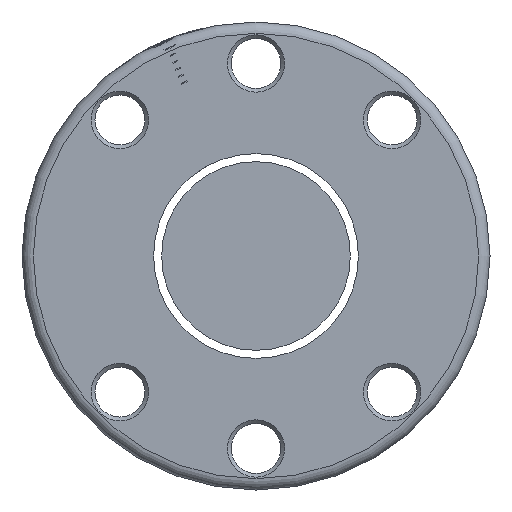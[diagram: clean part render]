
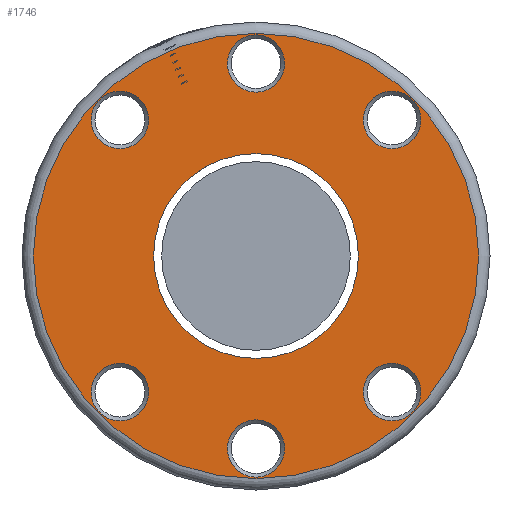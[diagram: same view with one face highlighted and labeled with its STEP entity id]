
A CAD part, left-side view. The second image highlights one B-rep face of the part: STEP entity #1746.
In plain terms, the highlighted planar face has unit normal (-1, 0, 0).
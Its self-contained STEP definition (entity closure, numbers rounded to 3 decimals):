
#11 = VERTEX_POINT ( 'NONE', #2136 ) ;
#20 = ORIENTED_EDGE ( 'NONE', *, *, #720, .T. ) ;
#38 = CARTESIAN_POINT ( 'NONE',  ( -54., 18.031, 21.831 ) ) ;
#52 = CARTESIAN_POINT ( 'NONE',  ( -54., 0., -21.7 ) ) ;
#124 = FACE_BOUND ( 'NONE', #251, .T. ) ;
#152 = DIRECTION ( 'NONE',  ( 0., 0., 1. ) ) ;
#178 = CARTESIAN_POINT ( 'NONE',  ( -54., 0., 0. ) ) ;
#180 = CIRCLE ( 'NONE', #1931, 3.8 ) ;
#231 = CIRCLE ( 'NONE', #273, 29.5 ) ;
#251 = EDGE_LOOP ( 'NONE', ( #1178 ) ) ;
#270 = CARTESIAN_POINT ( 'NONE',  ( -54., -18.031, 21.831 ) ) ;
#273 = AXIS2_PLACEMENT_3D ( 'NONE', #178, #411, #618 ) ;
#277 = AXIS2_PLACEMENT_3D ( 'NONE', #2022, #777, #569 ) ;
#280 = EDGE_CURVE ( 'NONE', #416, #416, #180, .T. ) ;
#349 = DIRECTION ( 'NONE',  ( 1., 0., 0. ) ) ;
#361 = FACE_BOUND ( 'NONE', #1383, .T. ) ;
#411 = DIRECTION ( 'NONE',  ( -1., 0., 0. ) ) ;
#416 = VERTEX_POINT ( 'NONE', #1885 ) ;
#424 = EDGE_LOOP ( 'NONE', ( #1820 ) ) ;
#456 = AXIS2_PLACEMENT_3D ( 'NONE', #1174, #1423, #2255 ) ;
#522 = FACE_OUTER_BOUND ( 'NONE', #619, .T. ) ;
#531 = ORIENTED_EDGE ( 'NONE', *, *, #1690, .T. ) ;
#555 = FACE_BOUND ( 'NONE', #1784, .T. ) ;
#569 = DIRECTION ( 'NONE',  ( 0., 0., 1. ) ) ;
#577 = EDGE_LOOP ( 'NONE', ( #2605 ) ) ;
#618 = DIRECTION ( 'NONE',  ( 0., 0., 1. ) ) ;
#619 = EDGE_LOOP ( 'NONE', ( #2030 ) ) ;
#700 = DIRECTION ( 'NONE',  ( 0., 0., 1. ) ) ;
#720 = EDGE_CURVE ( 'NONE', #1336, #1336, #1245, .T. ) ;
#768 = EDGE_LOOP ( 'NONE', ( #20 ) ) ;
#777 = DIRECTION ( 'NONE',  ( 1., 0., 0. ) ) ;
#853 = DIRECTION ( 'NONE',  ( 0., 0., -1. ) ) ;
#998 = FACE_BOUND ( 'NONE', #424, .T. ) ;
#1068 = AXIS2_PLACEMENT_3D ( 'NONE', #2646, #349, #1349 ) ;
#1074 = VERTEX_POINT ( 'NONE', #270 ) ;
#1086 = VERTEX_POINT ( 'NONE', #1285 ) ;
#1114 = CIRCLE ( 'NONE', #1823, 3.8 ) ;
#1144 = EDGE_CURVE ( 'NONE', #1074, #1074, #1254, .T. ) ;
#1174 = CARTESIAN_POINT ( 'NONE',  ( -54., -18.031, -18.031 ) ) ;
#1178 = ORIENTED_EDGE ( 'NONE', *, *, #1900, .T. ) ;
#1220 = FACE_BOUND ( 'NONE', #768, .T. ) ;
#1245 = CIRCLE ( 'NONE', #1586, 13.57 ) ;
#1254 = CIRCLE ( 'NONE', #1068, 3.8 ) ;
#1256 = EDGE_CURVE ( 'NONE', #1086, #1086, #231, .T. ) ;
#1285 = CARTESIAN_POINT ( 'NONE',  ( -54., 0., 29.5 ) ) ;
#1317 = CARTESIAN_POINT ( 'NONE',  ( -54., 18.031, 18.031 ) ) ;
#1320 = DIRECTION ( 'NONE',  ( 0., 0., 1. ) ) ;
#1336 = VERTEX_POINT ( 'NONE', #2354 ) ;
#1349 = DIRECTION ( 'NONE',  ( 0., 0., 1. ) ) ;
#1362 = CARTESIAN_POINT ( 'NONE',  ( -54., 31., 0. ) ) ;
#1383 = EDGE_LOOP ( 'NONE', ( #531 ) ) ;
#1395 = PLANE ( 'NONE',  #2555 ) ;
#1410 = FACE_BOUND ( 'NONE', #2178, .T. ) ;
#1423 = DIRECTION ( 'NONE',  ( 1., 0., 0. ) ) ;
#1428 = EDGE_CURVE ( 'NONE', #1937, #1937, #1114, .T. ) ;
#1483 = VERTEX_POINT ( 'NONE', #2314 ) ;
#1586 = AXIS2_PLACEMENT_3D ( 'NONE', #1629, #2015, #853 ) ;
#1629 = CARTESIAN_POINT ( 'NONE',  ( -54., 0., 0. ) ) ;
#1684 = CIRCLE ( 'NONE', #277, 3.8 ) ;
#1690 = EDGE_CURVE ( 'NONE', #11, #11, #2601, .T. ) ;
#1691 = VERTEX_POINT ( 'NONE', #52 ) ;
#1699 = ORIENTED_EDGE ( 'NONE', *, *, #1951, .T. ) ;
#1744 = DIRECTION ( 'NONE',  ( 1., 0., 0. ) ) ;
#1746 = ADVANCED_FACE ( 'NONE', ( #522, #2226, #1410, #124, #361, #998, #555, #1220 ), #1395, .T. ) ;
#1774 = CARTESIAN_POINT ( 'NONE',  ( -54., 18.031, -18.031 ) ) ;
#1784 = EDGE_LOOP ( 'NONE', ( #2045 ) ) ;
#1820 = ORIENTED_EDGE ( 'NONE', *, *, #1144, .T. ) ;
#1823 = AXIS2_PLACEMENT_3D ( 'NONE', #1317, #2571, #700 ) ;
#1885 = CARTESIAN_POINT ( 'NONE',  ( -54., 0., 29.3 ) ) ;
#1900 = EDGE_CURVE ( 'NONE', #1691, #1691, #1684, .T. ) ;
#1931 = AXIS2_PLACEMENT_3D ( 'NONE', #2159, #1744, #1320 ) ;
#1937 = VERTEX_POINT ( 'NONE', #38 ) ;
#1951 = EDGE_CURVE ( 'NONE', #1483, #1483, #2688, .T. ) ;
#1992 = DIRECTION ( 'NONE',  ( 1., 0., 0. ) ) ;
#2015 = DIRECTION ( 'NONE',  ( 1., 0., 0. ) ) ;
#2022 = CARTESIAN_POINT ( 'NONE',  ( -54., 0., -25.5 ) ) ;
#2030 = ORIENTED_EDGE ( 'NONE', *, *, #1256, .T. ) ;
#2045 = ORIENTED_EDGE ( 'NONE', *, *, #280, .T. ) ;
#2046 = AXIS2_PLACEMENT_3D ( 'NONE', #1774, #1992, #152 ) ;
#2136 = CARTESIAN_POINT ( 'NONE',  ( -54., -18.031, -14.231 ) ) ;
#2159 = CARTESIAN_POINT ( 'NONE',  ( -54., 0., 25.5 ) ) ;
#2178 = EDGE_LOOP ( 'NONE', ( #1699 ) ) ;
#2191 = DIRECTION ( 'NONE',  ( 0., 0., 1. ) ) ;
#2226 = FACE_BOUND ( 'NONE', #577, .T. ) ;
#2255 = DIRECTION ( 'NONE',  ( 0., 0., 1. ) ) ;
#2314 = CARTESIAN_POINT ( 'NONE',  ( -54., 18.031, -14.231 ) ) ;
#2354 = CARTESIAN_POINT ( 'NONE',  ( -54., 0., -13.57 ) ) ;
#2440 = DIRECTION ( 'NONE',  ( -1., 0., 0. ) ) ;
#2555 = AXIS2_PLACEMENT_3D ( 'NONE', #1362, #2440, #2191 ) ;
#2571 = DIRECTION ( 'NONE',  ( 1., 0., 0. ) ) ;
#2601 = CIRCLE ( 'NONE', #456, 3.8 ) ;
#2605 = ORIENTED_EDGE ( 'NONE', *, *, #1428, .T. ) ;
#2646 = CARTESIAN_POINT ( 'NONE',  ( -54., -18.031, 18.031 ) ) ;
#2688 = CIRCLE ( 'NONE', #2046, 3.8 ) ;
